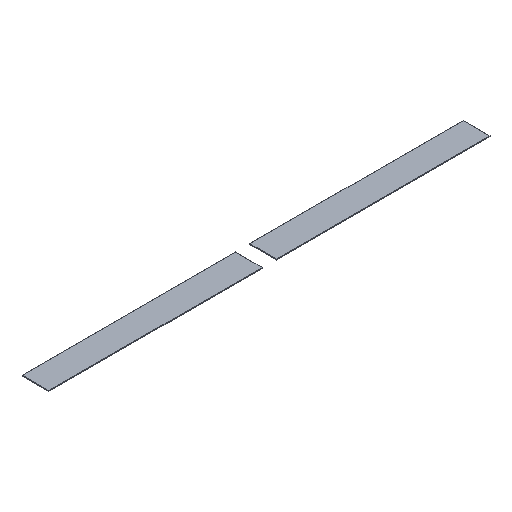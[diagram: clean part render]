
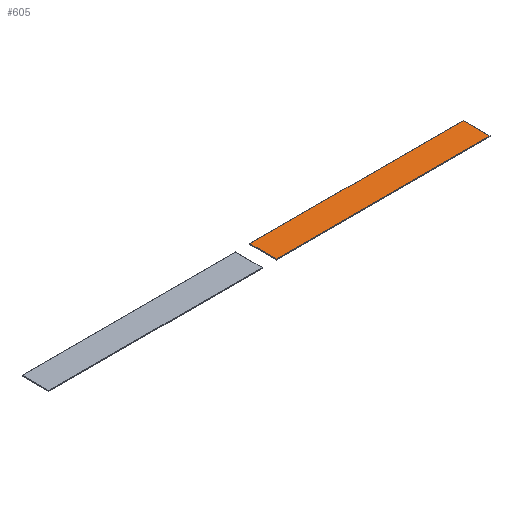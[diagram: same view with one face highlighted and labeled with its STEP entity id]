
A CAD part, isometric view. The second image highlights one B-rep face of the part: STEP entity #605.
In plain terms, the highlighted planar face has unit normal (0, 0, 1).
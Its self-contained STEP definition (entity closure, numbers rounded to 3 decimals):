
#387 = PLANE('',#388);
#388 = AXIS2_PLACEMENT_3D('',#389,#390,#391);
#389 = CARTESIAN_POINT('',(-850.,-50.,0.));
#390 = DIRECTION('',(0.,1.,0.));
#391 = DIRECTION('',(1.,0.,0.));
#412 = VERTEX_POINT('',#413);
#413 = CARTESIAN_POINT('',(27.,-50.,3.));
#426 = PLANE('',#427);
#427 = AXIS2_PLACEMENT_3D('',#428,#429,#430);
#428 = CARTESIAN_POINT('',(27.,-60.,25.));
#429 = DIRECTION('',(-1.,0.,0.));
#430 = DIRECTION('',(0.,0.,-1.));
#437 = EDGE_CURVE('',#412,#438,#440,.T.);
#438 = VERTEX_POINT('',#439);
#439 = CARTESIAN_POINT('',(823.,-50.,3.));
#440 = SURFACE_CURVE('',#441,(#445,#452),.PCURVE_S1.);
#441 = LINE('',#442,#443);
#442 = CARTESIAN_POINT('',(-850.,-50.,3.));
#443 = VECTOR('',#444,1.);
#444 = DIRECTION('',(1.,0.,0.));
#445 = PCURVE('',#387,#446);
#446 = DEFINITIONAL_REPRESENTATION('',(#447),#451);
#447 = LINE('',#448,#449);
#448 = CARTESIAN_POINT('',(0.,-3.));
#449 = VECTOR('',#450,1.);
#450 = DIRECTION('',(1.,0.));
#451 = ( GEOMETRIC_REPRESENTATION_CONTEXT(2) 
PARAMETRIC_REPRESENTATION_CONTEXT() REPRESENTATION_CONTEXT('2D SPACE',''
  ) );
#452 = PCURVE('',#453,#458);
#453 = PLANE('',#454);
#454 = AXIS2_PLACEMENT_3D('',#455,#456,#457);
#455 = CARTESIAN_POINT('',(0.,0.,3.));
#456 = DIRECTION('',(0.,0.,1.));
#457 = DIRECTION('',(1.,0.,-0.));
#458 = DEFINITIONAL_REPRESENTATION('',(#459),#463);
#459 = LINE('',#460,#461);
#460 = CARTESIAN_POINT('',(-850.,-50.));
#461 = VECTOR('',#462,1.);
#462 = DIRECTION('',(1.,0.));
#463 = ( GEOMETRIC_REPRESENTATION_CONTEXT(2) 
PARAMETRIC_REPRESENTATION_CONTEXT() REPRESENTATION_CONTEXT('2D SPACE',''
  ) );
#478 = PLANE('',#479);
#479 = AXIS2_PLACEMENT_3D('',#480,#481,#482);
#480 = CARTESIAN_POINT('',(823.,-60.,-25.));
#481 = DIRECTION('',(1.,0.,0.));
#482 = DIRECTION('',(0.,0.,1.));
#529 = PLANE('',#530);
#530 = AXIS2_PLACEMENT_3D('',#531,#532,#533);
#531 = CARTESIAN_POINT('',(850.,50.,0.));
#532 = DIRECTION('',(0.,-1.,0.));
#533 = DIRECTION('',(-1.,0.,0.));
#564 = EDGE_CURVE('',#438,#565,#567,.T.);
#565 = VERTEX_POINT('',#566);
#566 = CARTESIAN_POINT('',(823.,50.,3.));
#567 = SURFACE_CURVE('',#568,(#572,#578),.PCURVE_S1.);
#568 = LINE('',#569,#570);
#569 = CARTESIAN_POINT('',(823.,-30.,3.));
#570 = VECTOR('',#571,1.);
#571 = DIRECTION('',(0.,1.,0.));
#572 = PCURVE('',#478,#573);
#573 = DEFINITIONAL_REPRESENTATION('',(#574),#577);
#574 = B_SPLINE_CURVE_WITH_KNOTS('',1,(#575,#576),.UNSPECIFIED.,.F.,.F.,
  (2,2),(-20.,80.),.PIECEWISE_BEZIER_KNOTS.);
#575 = CARTESIAN_POINT('',(28.,-10.));
#576 = CARTESIAN_POINT('',(28.,-110.));
#577 = ( GEOMETRIC_REPRESENTATION_CONTEXT(2) 
PARAMETRIC_REPRESENTATION_CONTEXT() REPRESENTATION_CONTEXT('2D SPACE',''
  ) );
#578 = PCURVE('',#453,#579);
#579 = DEFINITIONAL_REPRESENTATION('',(#580),#583);
#580 = B_SPLINE_CURVE_WITH_KNOTS('',1,(#581,#582),.UNSPECIFIED.,.F.,.F.,
  (2,2),(-20.,80.),.PIECEWISE_BEZIER_KNOTS.);
#581 = CARTESIAN_POINT('',(823.,-50.));
#582 = CARTESIAN_POINT('',(823.,50.));
#583 = ( GEOMETRIC_REPRESENTATION_CONTEXT(2) 
PARAMETRIC_REPRESENTATION_CONTEXT() REPRESENTATION_CONTEXT('2D SPACE',''
  ) );
#605 = ADVANCED_FACE('',(#606),#453,.T.);
#606 = FACE_BOUND('',#607,.T.);
#607 = EDGE_LOOP('',(#608,#609,#632,#651));
#608 = ORIENTED_EDGE('',*,*,#564,.T.);
#609 = ORIENTED_EDGE('',*,*,#610,.T.);
#610 = EDGE_CURVE('',#565,#611,#613,.T.);
#611 = VERTEX_POINT('',#612);
#612 = CARTESIAN_POINT('',(27.,50.,3.));
#613 = SURFACE_CURVE('',#614,(#618,#625),.PCURVE_S1.);
#614 = LINE('',#615,#616);
#615 = CARTESIAN_POINT('',(850.,50.,3.));
#616 = VECTOR('',#617,1.);
#617 = DIRECTION('',(-1.,0.,0.));
#618 = PCURVE('',#453,#619);
#619 = DEFINITIONAL_REPRESENTATION('',(#620),#624);
#620 = LINE('',#621,#622);
#621 = CARTESIAN_POINT('',(850.,50.));
#622 = VECTOR('',#623,1.);
#623 = DIRECTION('',(-1.,0.));
#624 = ( GEOMETRIC_REPRESENTATION_CONTEXT(2) 
PARAMETRIC_REPRESENTATION_CONTEXT() REPRESENTATION_CONTEXT('2D SPACE',''
  ) );
#625 = PCURVE('',#529,#626);
#626 = DEFINITIONAL_REPRESENTATION('',(#627),#631);
#627 = LINE('',#628,#629);
#628 = CARTESIAN_POINT('',(0.,-3.));
#629 = VECTOR('',#630,1.);
#630 = DIRECTION('',(1.,0.));
#631 = ( GEOMETRIC_REPRESENTATION_CONTEXT(2) 
PARAMETRIC_REPRESENTATION_CONTEXT() REPRESENTATION_CONTEXT('2D SPACE',''
  ) );
#632 = ORIENTED_EDGE('',*,*,#633,.T.);
#633 = EDGE_CURVE('',#611,#412,#634,.T.);
#634 = SURFACE_CURVE('',#635,(#639,#645),.PCURVE_S1.);
#635 = LINE('',#636,#637);
#636 = CARTESIAN_POINT('',(27.,-30.,3.));
#637 = VECTOR('',#638,1.);
#638 = DIRECTION('',(0.,-1.,0.));
#639 = PCURVE('',#453,#640);
#640 = DEFINITIONAL_REPRESENTATION('',(#641),#644);
#641 = B_SPLINE_CURVE_WITH_KNOTS('',1,(#642,#643),.UNSPECIFIED.,.F.,.F.,
  (2,2),(-80.,20.),.PIECEWISE_BEZIER_KNOTS.);
#642 = CARTESIAN_POINT('',(27.,50.));
#643 = CARTESIAN_POINT('',(27.,-50.));
#644 = ( GEOMETRIC_REPRESENTATION_CONTEXT(2) 
PARAMETRIC_REPRESENTATION_CONTEXT() REPRESENTATION_CONTEXT('2D SPACE',''
  ) );
#645 = PCURVE('',#426,#646);
#646 = DEFINITIONAL_REPRESENTATION('',(#647),#650);
#647 = B_SPLINE_CURVE_WITH_KNOTS('',1,(#648,#649),.UNSPECIFIED.,.F.,.F.,
  (2,2),(-80.,20.),.PIECEWISE_BEZIER_KNOTS.);
#648 = CARTESIAN_POINT('',(22.,-110.));
#649 = CARTESIAN_POINT('',(22.,-10.));
#650 = ( GEOMETRIC_REPRESENTATION_CONTEXT(2) 
PARAMETRIC_REPRESENTATION_CONTEXT() REPRESENTATION_CONTEXT('2D SPACE',''
  ) );
#651 = ORIENTED_EDGE('',*,*,#437,.T.);
